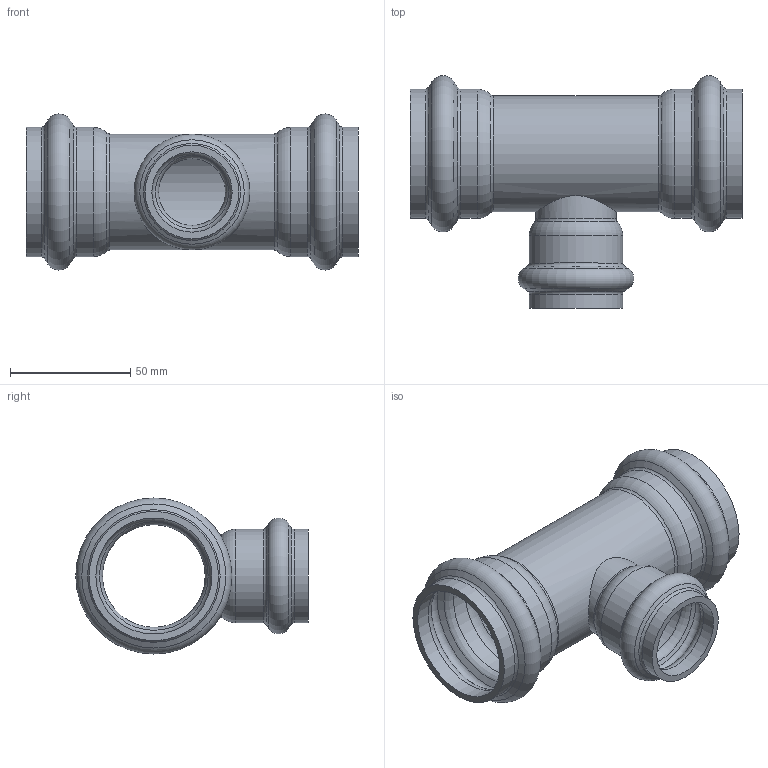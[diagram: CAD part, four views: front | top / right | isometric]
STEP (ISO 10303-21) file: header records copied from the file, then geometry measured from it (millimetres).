
FILE_DESCRIPTION(/* description */ ('VIC TEE RED. BRANCH STYLE P593 (P X P X P)','CAx-IF Rec.Pracs.---Representation and Presentation of Product Manufacturing Information (PMI)---4.0---2014-10-13'),/* implementation_level */ '2;1');
FILE_NAME(/* name */ 'C:\Users\Vjadhav\AppData\Roaming\Autodesk\ApplicationPlugins\Back Up\Victaulic_SS-Vic-Press-TP 304_Tee Reducing_Style P593 (VP)\Victaulic_SS-Vic-Press-TP 304_Tee Reducing_Style P593 (VP)_01.5x01.0 (40x25).stp',/* time_stamp */ '2020-08-12T18:32:32+05:00',/* author */ ('cgray'),/* organization */ ('Victaulic'),/* preprocessor_version */ 'ST-DEVELOPER v17.2',/* originating_system */ 'Autodesk Inventor 2019',/* authorisation */ '');
FILE_SCHEMA (('AP242_MANAGED_MODEL_BASED_3D_ENGINEERING_MIM_LF { 1 0 10303 442 1 1 4 }'));
Length unit declared in the file: inch
Products named in the file (1): P593-01.5x01.0
Bounding box: 138.18 x 96.75 x 64.97 mm (x, y, z)
Volume: 77995.4 mm3; surface area: 57524.6 mm2
Topology: 1 solids, 1 shells, 61 faces, 220 edges, 160 vertices
Faces by surface type: torus 30, cylinder 16, cone 12, plane 3
Full cylindrical faces by diameter (mm): 27.864 x1, 33.401 x3, 38.938 x2, 42.723 x1, 48.26 x5, 53.797 x4
Entity records: 2833 total; most frequent: CARTESIAN_POINT 571, DIRECTION 544, ORIENTED_EDGE 440, AXIS2_PLACEMENT_3D 257, EDGE_CURVE 220, CIRCLE 182, VERTEX_POINT 160, EDGE_LOOP 64
